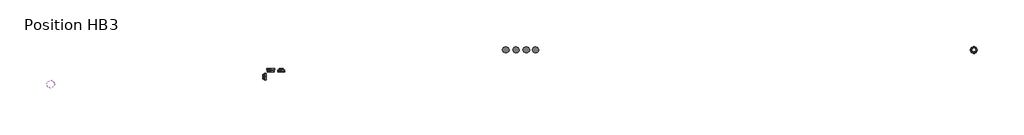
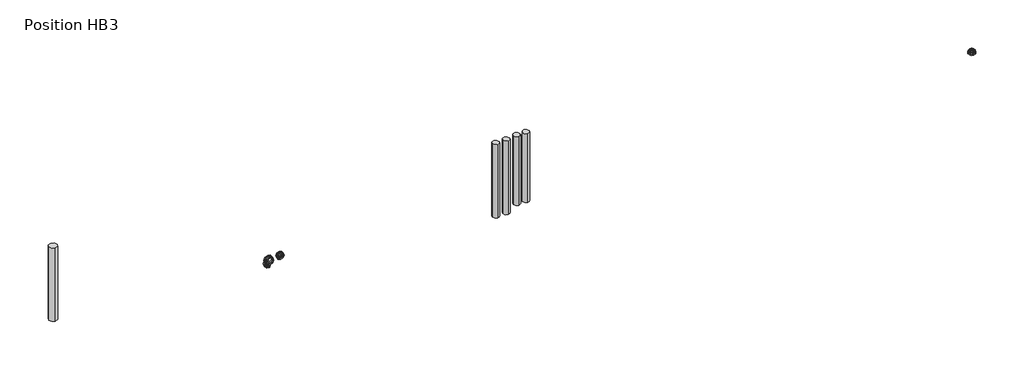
# One storey, incomplete: 5 duct segments, 4 duct fittings.
"""IFC4 building model written with IfcOpenShell, lengths in millimetres."""

from ifc_helpers import new_model, si_unit, point, frame, frame_2d, origin, place, context, project, spatial, circle_curve, trimmed, segment, composite_curve, outline, extrude, transform, mapped, element, save
from components import duct_fitting_cf8d5976, duct_fitting_80_125_7c03a684

model = new_model("IFC4")

# Units and contexts
model_context = context("Model", 3, world=origin())
ifc_project = project(units=[si_unit("LENGTHUNIT", "METRE", prefix="MILLI")], contexts=[model_context])

# Site, building, storey
site = spatial("IfcSite", under=ifc_project)
building = spatial("IfcBuilding", under=site)
storey = spatial("IfcBuildingStorey", under=building, Name="Position HB3", Elevation=1750.0)

# Duct fittings
placement = place(None, origin())
duct_fitting_shape = duct_fitting_cf8d5976(model_context)
element("IfcDuctFitting", 1, ObjectType="Renson_Healthbox 3_Reducer_Round_Exhaust Adapter 125-150 : 125-150", at=placement, inside=storey, context=model_context, shape_type="MappedRepresentation", body=[
    mapped(duct_fitting_shape, transform((-10879.5454561, 2904.8055358, 2560.9019715), x_axis=(0.0, 1.000000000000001, 0.0), y_axis=(1.0000000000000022, 0.0, 0.0), z_axis=(0.0, 0.0, -1.000000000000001))),
])
duct_fitting_80_125_shape = duct_fitting_80_125_7c03a684(model_context)
element("IfcDuctFitting", 2, ObjectType="Renson_Healthbox 3_Reducer_Round_Adapter 80-125 : 80-125", at=placement, inside=storey, context=model_context, shape_type="MappedRepresentation", body=[
    mapped(duct_fitting_80_125_shape, transform((-10690.5454561, 2903.8055358, 2595.9019715), x_axis=(0.0, 1.0, 0.0), y_axis=(1.0, 0.0, 0.0), z_axis=(0.0, 0.0, -1.0))),
])
element("IfcDuctFitting", 3, ObjectType="Renson_Healthbox 3_Reducer_Round_Adapter 80-125 : 80-125", at=placement, inside=storey, context=model_context, shape_type="MappedRepresentation", body=[
    mapped(duct_fitting_80_125_shape, transform((-10962.5454561, 2821.8055358, 2595.9019715), x_axis=(-1.0, 0.0, 0.0), y_axis=(0.0, 1.0, 0.0), z_axis=(0.0, 0.0, -1.0))),
])
element("IfcDuctFitting", 4, ObjectType="Renson_Healthbox 3_Reducer_Round_Adapter 80-125 : 80-125", at=placement, inside=storey, context=model_context, shape_type="MappedRepresentation", body=[
    mapped(duct_fitting_80_125_shape, transform((2077.9659568, 3317.2435118, 1767.0), x_axis=(0.0, 0.0, 1.0), y_axis=(-1.0, 0.0, 0.0), z_axis=(0.0, -1.0, 0.0))),
])

# Duct segments
element("IfcDuctSegment", 5, ObjectType="Riser pipe", at=placement, inside=storey, context=model_context, shape_type="SweptSolid", body=[
    extrude(outline(composite_curve([segment(trimmed(circle_curve(frame_2d((-6552.9079005, 3317.2435118)), 62.5), [point((-6615.4079005, 3317.2435118))], [point((-6552.9079005, 3379.7435118))], False, "CARTESIAN"), True, "CONTINUOUS"), segment(trimmed(circle_curve(frame_2d((-6552.9079005, 3317.2435118)), 62.5), [point((-6552.9079005, 3379.7435118))], [point((-6490.4079005, 3317.2435118))], False, "CARTESIAN"), True, "CONTINUOUS"), segment(trimmed(circle_curve(frame_2d((-6552.9079005, 3317.2435118)), 62.5), [point((-6490.4079005, 3317.2435118))], [point((-6552.9079005, 3254.7435118))], False, "CARTESIAN"), True, "CONTINUOUS"), segment(trimmed(circle_curve(frame_2d((-6552.9079005, 3317.2435118)), 62.5), [point((-6552.9079005, 3254.7435118))], [point((-6615.4079005, 3317.2435118))], False, "CARTESIAN"), True, "CONTINUOUS")], self_intersect=False)), frame((0.0, 0.0, 1663.3063466), z_axis=(0.0, 0.0, 1.0), x_axis=(1.0, 0.0, 0.0)), (0.0, 0.0, 1.0), 1408.9019715),
])
element("IfcDuctSegment", 6, ObjectType="Riser pipe", at=placement, inside=storey, context=model_context, shape_type="SweptSolid", body=[
    extrude(outline(composite_curve([segment(trimmed(circle_curve(frame_2d((-6362.9079005, 3317.2435118)), 62.5), [point((-6425.4079005, 3317.2435118))], [point((-6362.9079005, 3379.7435118))], False, "CARTESIAN"), True, "CONTINUOUS"), segment(trimmed(circle_curve(frame_2d((-6362.9079005, 3317.2435118)), 62.5), [point((-6362.9079005, 3379.7435118))], [point((-6300.4079005, 3317.2435118))], False, "CARTESIAN"), True, "CONTINUOUS"), segment(trimmed(circle_curve(frame_2d((-6362.9079005, 3317.2435118)), 62.5), [point((-6300.4079005, 3317.2435118))], [point((-6362.9079005, 3254.7435118))], False, "CARTESIAN"), True, "CONTINUOUS"), segment(trimmed(circle_curve(frame_2d((-6362.9079005, 3317.2435118)), 62.5), [point((-6362.9079005, 3254.7435118))], [point((-6425.4079005, 3317.2435118))], False, "CARTESIAN"), True, "CONTINUOUS")], self_intersect=False)), frame((0.0, 0.0, 1663.3063466), z_axis=(0.0, 0.0, 1.0), x_axis=(1.0, 0.0, 0.0)), (0.0, 0.0, 1.0), 1408.9019715),
])
element("IfcDuctSegment", 7, ObjectType="Riser pipe", at=placement, inside=storey, context=model_context, shape_type="SweptSolid", body=[
    extrude(outline(composite_curve([segment(trimmed(circle_curve(frame_2d((-6173.99621, 3317.2435118)), 62.5), [point((-6236.49621, 3317.2435118))], [point((-6173.99621, 3379.7435118))], False, "CARTESIAN"), True, "CONTINUOUS"), segment(trimmed(circle_curve(frame_2d((-6173.99621, 3317.2435118)), 62.5), [point((-6173.99621, 3379.7435118))], [point((-6111.49621, 3317.2435118))], False, "CARTESIAN"), True, "CONTINUOUS"), segment(trimmed(circle_curve(frame_2d((-6173.99621, 3317.2435118)), 62.5), [point((-6111.49621, 3317.2435118))], [point((-6173.99621, 3254.7435118))], False, "CARTESIAN"), True, "CONTINUOUS"), segment(trimmed(circle_curve(frame_2d((-6173.99621, 3317.2435118)), 62.5), [point((-6173.99621, 3254.7435118))], [point((-6236.49621, 3317.2435118))], False, "CARTESIAN"), True, "CONTINUOUS")], self_intersect=False)), frame((0.0, 0.0, 1772.3063466), z_axis=(0.0, 0.0, 1.0), x_axis=(1.0, 0.0, 0.0)), (0.0, 0.0, 1.0), 1316.375),
])
element("IfcDuctSegment", 8, ObjectType="Riser pipe", at=placement, inside=storey, context=model_context, shape_type="SweptSolid", body=[
    extrude(outline(composite_curve([segment(trimmed(circle_curve(frame_2d((-6004.62321, 3317.2435118)), 62.5), [point((-6067.12321, 3317.2435118))], [point((-6004.62321, 3379.7435118))], False, "CARTESIAN"), True, "CONTINUOUS"), segment(trimmed(circle_curve(frame_2d((-6004.62321, 3317.2435118)), 62.5), [point((-6004.62321, 3379.7435118))], [point((-5942.12321, 3317.2435118))], False, "CARTESIAN"), True, "CONTINUOUS"), segment(trimmed(circle_curve(frame_2d((-6004.62321, 3317.2435118)), 62.5), [point((-5942.12321, 3317.2435118))], [point((-6004.62321, 3254.7435118))], False, "CARTESIAN"), True, "CONTINUOUS"), segment(trimmed(circle_curve(frame_2d((-6004.62321, 3317.2435118)), 62.5), [point((-6004.62321, 3254.7435118))], [point((-6067.12321, 3317.2435118))], False, "CARTESIAN"), True, "CONTINUOUS")], self_intersect=False)), frame((0.0, 0.0, 1772.3063466), z_axis=(0.0, 0.0, 1.0), x_axis=(1.0, 0.0, 0.0)), (0.0, 0.0, 1.0), 1317.375),
])
element("IfcDuctSegment", 9, ObjectType="Riser pipe", at=placement, inside=storey, context=model_context, shape_type="SweptSolid", body=[
    extrude(outline(composite_curve([segment(trimmed(circle_curve(frame_2d((-14940.8881115, 2682.2435118)), 75.0), [point((-15015.8881115, 2682.2435118))], [point((-14940.8881115, 2757.2435118))], False, "CARTESIAN"), True, "CONTINUOUS"), segment(trimmed(circle_curve(frame_2d((-14940.8881115, 2682.2435118)), 75.0), [point((-14940.8881115, 2757.2435118))], [point((-14865.8881115, 2682.2435118))], False, "CARTESIAN"), True, "CONTINUOUS"), segment(trimmed(circle_curve(frame_2d((-14940.8881115, 2682.2435118)), 75.0), [point((-14865.8881115, 2682.2435118))], [point((-14940.8881115, 2607.2435118))], False, "CARTESIAN"), True, "CONTINUOUS"), segment(trimmed(circle_curve(frame_2d((-14940.8881115, 2682.2435118)), 75.0), [point((-14940.8881115, 2607.2435118))], [point((-15015.8881115, 2682.2435118))], False, "CARTESIAN"), True, "CONTINUOUS")], self_intersect=False)), frame((0.0, 0.0, 3013.5159715), z_axis=(0.0, 0.0, 1.0), x_axis=(1.0, 0.0, 0.0)), (0.0, 0.0, 1.0), 1400.0),
])

save(model, "model.ifc")
